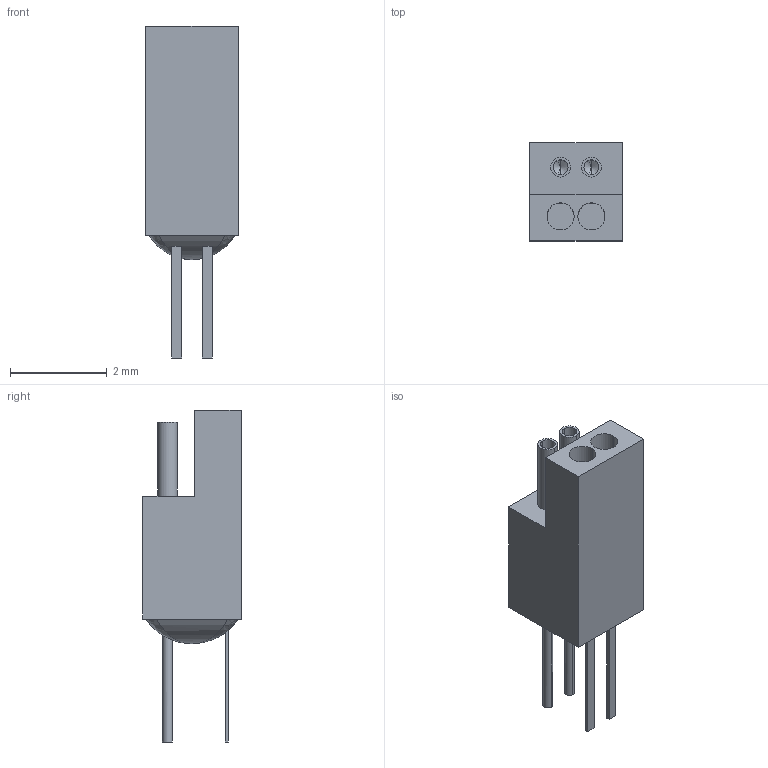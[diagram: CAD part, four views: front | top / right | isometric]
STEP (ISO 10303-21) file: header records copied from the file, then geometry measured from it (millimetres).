
FILE_DESCRIPTION (( 'STEP AP214' ), '1' );
FILE_NAME ('A79604-001 REV F.STEP', '2015-11-06T14:25:46', ( '' ), ( '' ), 'SwSTEP 2.0', 'SolidWorks 2015', '' );
FILE_SCHEMA (( 'AUTOMOTIVE_DESIGN' ));
Length unit declared in the file: inch
Products named in the file (1): A79604-001
Bounding box: 1.91 x 2.03 x 6.86 mm (x, y, z)
Volume: 12 mm3; surface area: 70.1 mm2
Topology: 1 solids, 1 shells, 52 faces, 124 edges, 75 vertices
Faces by surface type: plane 24, cylinder 20, cone 4, bspline 4
Entity records: 1703 total; most frequent: CARTESIAN_POINT 531, ORIENTED_EDGE 232, DIRECTION 224, EDGE_CURVE 116, AXIS2_PLACEMENT_3D 81, VERTEX_POINT 75, VECTOR 62, LINE 62
